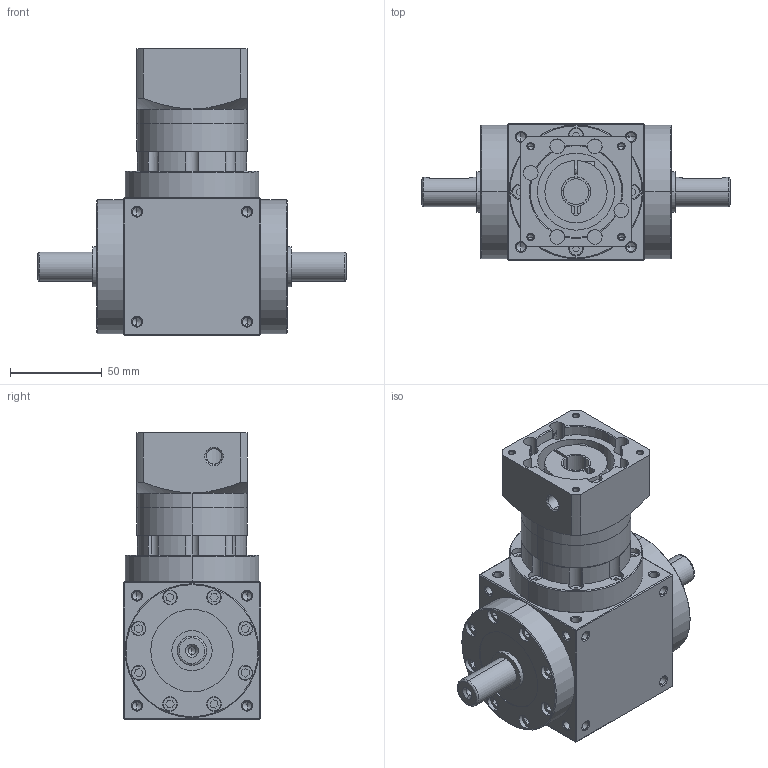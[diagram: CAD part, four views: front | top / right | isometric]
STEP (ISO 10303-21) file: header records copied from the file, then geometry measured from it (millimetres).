
FILE_DESCRIPTION (( 'STEP AP203' ), '1' );
FILE_NAME ('AT075-FL-L2-14-50-70M4.STEP', '2025-11-27T01:25:30', ( 'Windows User' ), ( 'P R C' ), 'SwSTEP 2.0', 'SolidWorks 2016', '' );
FILE_SCHEMA (( 'CONFIG_CONTROL_DESIGN' ));
Length unit declared in the file: millimetre
Products named in the file (6): AT75FL-转角箱体-批量-双轴输出; AT075FL-怀堤楊擘-蠶講; AT075FL-单级齿圈; 输入胀套-16; AT075FL-输入法兰-A-50-M4-70; AT075-FL-L2-14-50-70M4
Assembly tree (5 placements, depth 2):
  AT075-FL-L2-14-50-70M4
    AT75FL-转角箱体-批量-双轴输出
    AT075FL-怀堤楊擘-蠶講
    AT075FL-单级齿圈
    输入胀套-16
    AT075FL-输入法兰-A-50-M4-70
Bounding box: 168 x 75 x 156.5 mm (x, y, z)
Volume: 538485.1 mm3; surface area: 133657.1 mm2
Topology: 9 solids, 25 shells, 1626 faces, 4132 edges, 2585 vertices
Faces by surface type: plane 791, cylinder 398, cone 303, bspline 134
Entity records: 53803 total; most frequent: CARTESIAN_POINT 15270, ORIENTED_EDGE 8024, DIRECTION 7470, EDGE_CURVE 4012, VERTEX_POINT 2585, LINE 2534, VECTOR 2534, AXIS2_PLACEMENT_3D 2468
